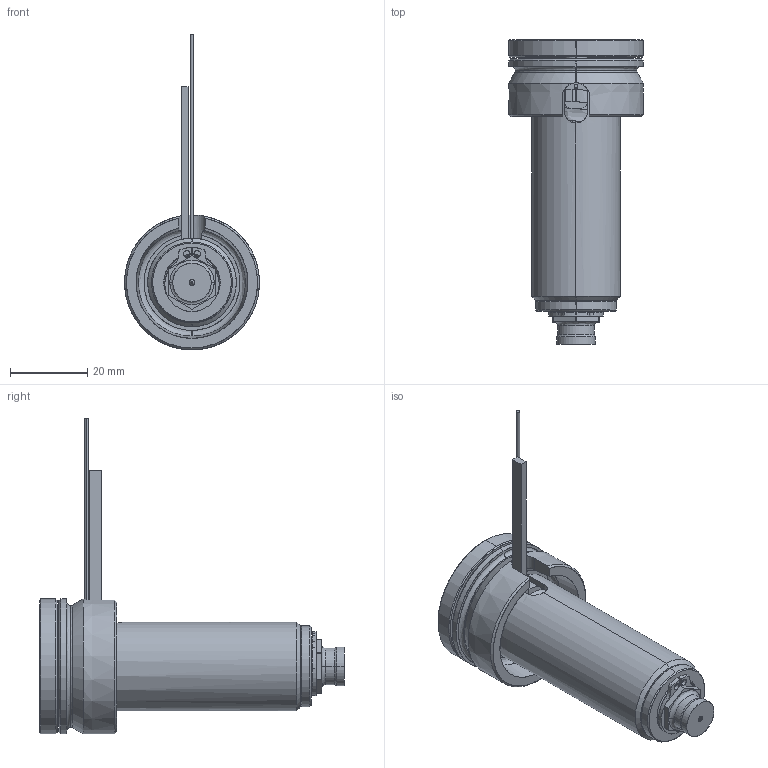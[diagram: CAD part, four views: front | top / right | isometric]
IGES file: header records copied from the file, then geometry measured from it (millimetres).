
Start section: SolidWorks IGES file using analytic representation for surfaces
Global section: file name: C:\Documents and Settings\ws-20\Desktop\TEM\UGEP3151-S-A-0 [Øf-0.50 P-0 ØC-6.0].IGS; native system: SolidWorks 2012; preprocessor: SolidWorks 2012; author: ws-20; date: 120404.080455; units: millimetre
Bounding box: 35 x 79 x 81.9 mm (x, y, z)
Surface area: 18018.6 mm2 (no closed solid volume)
Topology: 0 solids, 0 shells, 134 faces, 2048 edges, 2048 vertices
Faces by surface type: revolution 83, bspline 51
